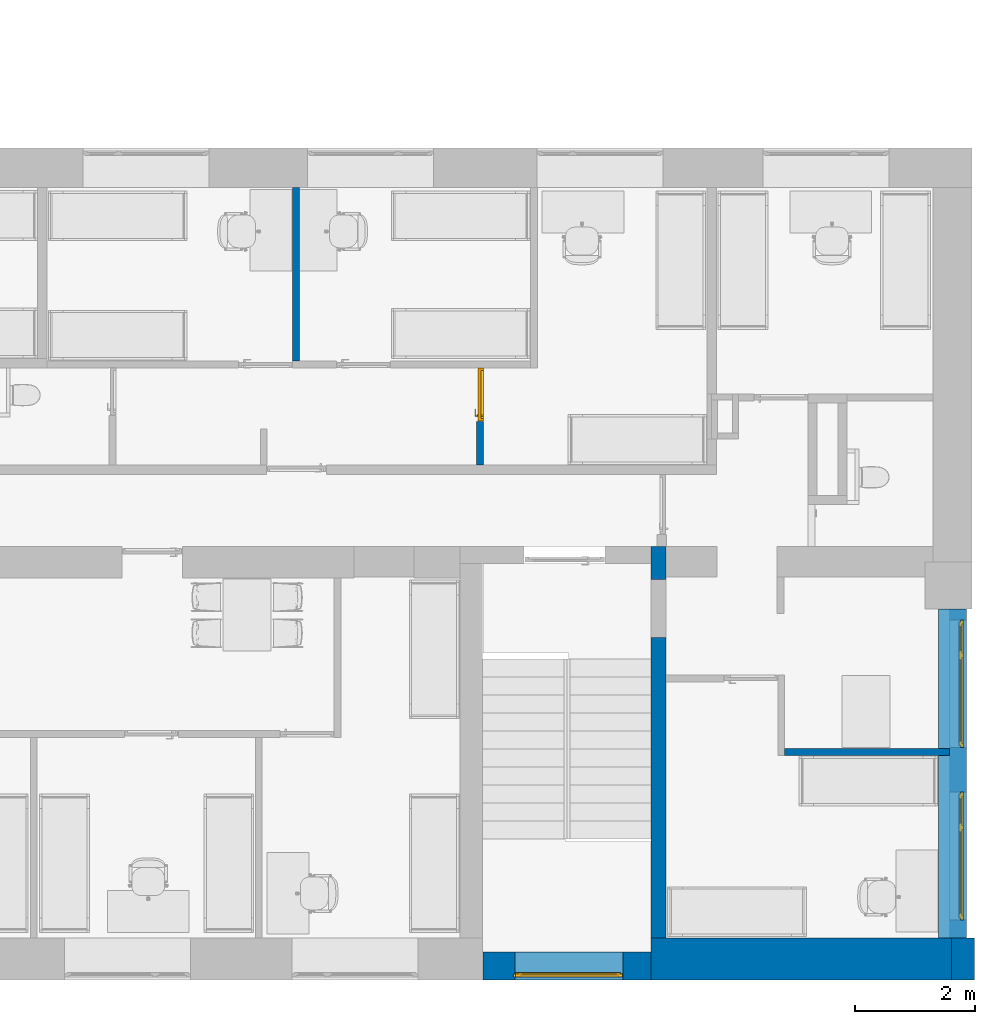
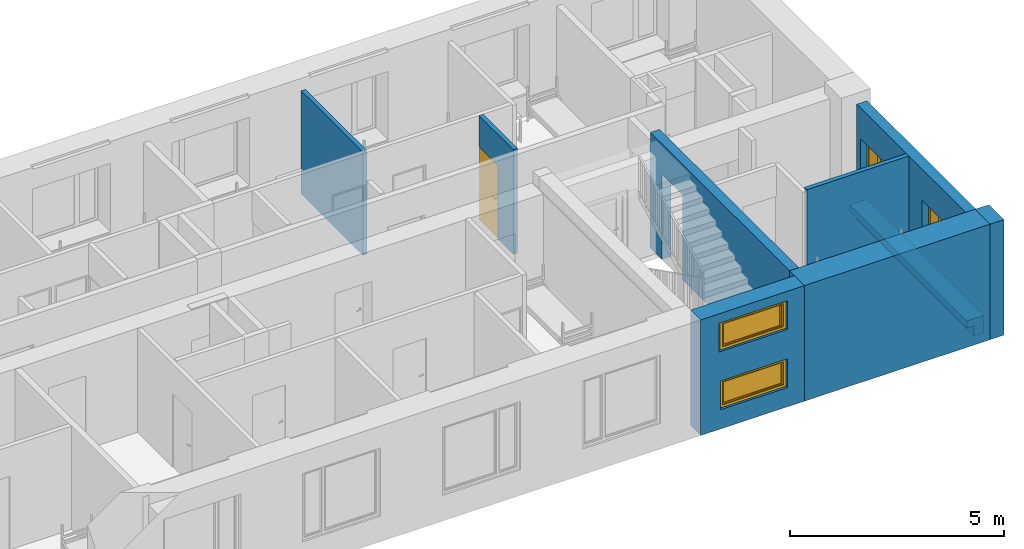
# One storey, part 11 of 48: 9 walls, 5 windows, 1 door, 10 openings.
"""IFC2X3 building model written with IfcOpenShell, lengths in millimetres."""

from ifc_helpers import new_model, entity, si_unit, converted_unit, derived_unit, direction, frame, frame_2d, origin, place, context, subcontext, project, spatial, polyline, rectangle, outline, extrude, clip, bounded_halfspace, faceted_brep, source, transform, mapped, material, material_list, layer, layer_set, layer_usage, type_object, type_shapes, element, fill, save


model = new_model("IFC2X3")

# Units and contexts
model_context = context("Model", 3, precision=0.01, world=origin(), true_north=direction((6.12303176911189e-17, 1.0)))
body_context = subcontext(model_context, "Body", "Model", "MODEL_VIEW")
ifc_project = project(units=[si_unit("LENGTHUNIT", "METRE", prefix="MILLI"), si_unit("AREAUNIT", "SQUARE_METRE"), si_unit("VOLUMEUNIT", "CUBIC_METRE"), converted_unit("PLANEANGLEUNIT", "DEGREE", entity("IfcRatioMeasure", 0.0174532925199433), si_unit("PLANEANGLEUNIT", "RADIAN"), dimensions=[0, 0, 0, 0, 0, 0, 0]), si_unit("MASSUNIT", "GRAM", prefix="KILO"), derived_unit("MASSDENSITYUNIT", [(si_unit("MASSUNIT", "GRAM", prefix="KILO"), 1), (si_unit("LENGTHUNIT", "METRE"), -3)]), si_unit("TIMEUNIT", "SECOND"), si_unit("FREQUENCYUNIT", "HERTZ"), si_unit("THERMODYNAMICTEMPERATUREUNIT", "DEGREE_CELSIUS"), derived_unit("THERMALTRANSMITTANCEUNIT", [(si_unit("MASSUNIT", "GRAM", prefix="KILO"), 1), (si_unit("THERMODYNAMICTEMPERATUREUNIT", "KELVIN"), -1), (si_unit("TIMEUNIT", "SECOND"), -3)]), derived_unit("VOLUMETRICFLOWRATEUNIT", [(si_unit("LENGTHUNIT", "METRE"), 3), (si_unit("TIMEUNIT", "SECOND"), -1)]), si_unit("ELECTRICCURRENTUNIT", "AMPERE"), si_unit("ELECTRICVOLTAGEUNIT", "VOLT"), si_unit("POWERUNIT", "WATT"), si_unit("FORCEUNIT", "NEWTON", prefix="KILO"), si_unit("ILLUMINANCEUNIT", "LUX"), si_unit("LUMINOUSFLUXUNIT", "LUMEN"), si_unit("LUMINOUSINTENSITYUNIT", "CANDELA"), derived_unit("USERDEFINED", [(si_unit("MASSUNIT", "GRAM", prefix="KILO"), -1), (si_unit("LENGTHUNIT", "METRE"), -2), (si_unit("TIMEUNIT", "SECOND"), 3), (si_unit("LUMINOUSFLUXUNIT", "LUMEN"), 1)]), derived_unit("LINEARVELOCITYUNIT", [(si_unit("LENGTHUNIT", "METRE"), 1), (si_unit("TIMEUNIT", "SECOND"), -1)]), si_unit("PRESSUREUNIT", "PASCAL"), derived_unit("USERDEFINED", [(si_unit("LENGTHUNIT", "METRE"), -2), (si_unit("MASSUNIT", "GRAM", prefix="KILO"), 1), (si_unit("TIMEUNIT", "SECOND"), -2)]), derived_unit("LINEARFORCEUNIT", [(si_unit("MASSUNIT", "GRAM", prefix="KILO"), 1), (si_unit("LENGTHUNIT", "METRE"), 1), (si_unit("TIMEUNIT", "SECOND"), -2), (si_unit("LENGTHUNIT", "METRE"), -1)]), derived_unit("PLANARFORCEUNIT", [(si_unit("MASSUNIT", "GRAM", prefix="KILO"), 1), (si_unit("LENGTHUNIT", "METRE"), 1), (si_unit("TIMEUNIT", "SECOND"), -2), (si_unit("LENGTHUNIT", "METRE"), -2)])], contexts=[model_context])

# Site, building, storey
site_placement = place(None, origin())
site = spatial("IfcSite", under=ifc_project, at=site_placement, Name="Default", CompositionType="ELEMENT")
building_placement = place(site_placement, origin())
building = spatial("IfcBuilding", under=site, at=building_placement, Name="SMA ARH", CompositionType="ELEMENT")
storey_placement = place(building_placement, frame((0.0, 0.0, 3300.0)))
storey = spatial("IfcBuildingStorey", under=building, at=storey_placement, Name="2 Korrus", CompositionType="ELEMENT", Elevation=3299.99999999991)

# Wall, openings
ifc_material_1 = material(Name="_ol.olev sein")
ifc_layer_1 = layer(ifc_material_1, 700.0)
ifc_layer_set_1 = layer_set([ifc_layer_1], Name="Basic Wall:Generic - 700mm")
ifc_layer_usage_1 = layer_usage(ifc_layer_set_1, "AXIS2", "POSITIVE", -350.0)
wall_type_1 = type_object("IfcWallType", Name="Basic Wall:Generic - 700mm", PredefinedType="STANDARD", material=ifc_layer_set_1)
wall_1_placement = place(storey_placement, frame((33610.6980017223, -350.0, 0.0)))
wall_1 = element("IfcWallStandardCase", 1, at=wall_1_placement, inside=storey, type_object=wall_type_1, material=ifc_layer_usage_1, Name="Basic Wall:Generic - 700mm", ObjectType="Basic Wall:Generic - 700mm", context=body_context, shape_type="SweptSolid", body=[
    extrude(rectangle(XDim=5010.00000000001, YDim=700.0, at=frame_2d((2505.00000000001, 5.6843418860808e-14), x_axis=(-1.0, 0.0))), origin(), (0.0, 0.0, 1.0), 3299.99999999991),
])
opening_1_placement = place(wall_1_placement, origin())
element("IfcOpeningElement", 2, at=opening_1_placement, cuts=wall_1, Name="Basic Wall:Generic - 700mm", ObjectType="Opening", context=body_context, shape_type="SweptSolid", body=[
    extrude(rectangle(XDim=820.0, YDim=1800.0, at=frame_2d((0.0, 0.0), x_axis=(0.0, 1.0))), frame((-1360.69800172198, -1404.0, 960.0), z_axis=(0.0, 1.0, 0.0), x_axis=(-1.0, 0.0, 0.0)), (0.0, 0.0, 1.0), 3048.0),
])
opening_2_placement = place(wall_1_placement, origin())
element("IfcOpeningElement", 3, at=opening_2_placement, cuts=wall_1, Name="Basic Wall:Generic - 700mm", ObjectType="Opening", context=body_context, shape_type="SweptSolid", body=[
    extrude(rectangle(XDim=820.0, YDim=1800.0, at=frame_2d((4.32009983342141e-12, 0.0), x_axis=(0.0, 1.0))), frame((-1400.69800172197, -1404.0, 2620.0), z_axis=(0.0, 1.0, 0.0), x_axis=(-1.0, 0.0, 0.0)), (0.0, 0.0, 1.0), 3048.0),
])

# Wall, openings, windows
ifc_layer_2 = layer(ifc_material_1, 280.0)
ifc_layer_set_2 = layer_set([ifc_layer_2], Name="Basic Wall:Generic - 280mm")
ifc_layer_usage_2 = layer_usage(ifc_layer_set_2, "AXIS2", "NEGATIVE", 140.0)
wall_type_2 = type_object("IfcWallType", Name="Basic Wall:Generic - 280mm", PredefinedType="STANDARD", material=ifc_layer_set_2)
wall_2_placement = place(storey_placement, frame((38729.9009991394, 5480.0, 183.574181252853), z_axis=(0.0, 0.0, 1.0), x_axis=(0.0, -1.0, 0.0)))
wall_2 = element("IfcWallStandardCase", 4, at=wall_2_placement, inside=storey, type_object=wall_type_2, material=ifc_layer_usage_2, Name="Basic Wall:Generic - 280mm", ObjectType="Basic Wall:Generic - 280mm", context=body_context, shape_type="SweptSolid", body=[
    extrude(rectangle(XDim=5480.00000000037, YDim=279.999999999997, at=frame_2d((2740.00000000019, -2.70006239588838e-13), x_axis=(-1.0, 0.0))), origin(), (0.0, 0.0, 1.0), 2806.42581874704),
])
opening_3_placement = place(wall_2_placement, frame((3050.0, -140.0, 616.425818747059)))
opening_3 = element("IfcOpeningElement", 5, at=opening_3_placement, cuts=wall_2, Name="SMA_W2, 2-jaotus:A-00 - 19800x1900:1", ObjectType="Opening", context=body_context, shape_type="SweptSolid", body=[
    extrude(rectangle(XDim=1300.0, YDim=2130.0, at=frame_2d((650.0, 1065.0), x_axis=(1.0, 0.0))), frame((0.0, 0.0, 0.0), z_axis=(0.0, 1.0, 0.0), x_axis=(0.0, 0.0, 1.0)), (0.0, 0.0, 1.0), 280.0),
])
opening_4_placement = place(wall_2_placement, frame((180.0, -140.0, 631.425818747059)))
opening_4 = element("IfcOpeningElement", 6, at=opening_4_placement, cuts=wall_2, Name="SMA_W2, 2-jaotus:A-00 - 19800x1900:1", ObjectType="Opening", context=body_context, shape_type="SweptSolid", body=[
    extrude(rectangle(XDim=1300.0, YDim=2130.0, at=frame_2d((650.0, 1065.0), x_axis=(1.0, 0.0))), frame((0.0, 0.0, 0.0), z_axis=(0.0, 1.0, 0.0), x_axis=(0.0, 0.0, 1.0)), (0.0, 0.0, 1.0), 280.0),
])
ifc_material_2 = material(Name="Glass")
ifc_material_3 = material(Name="Hall")
ifc_material_list_1 = material_list([ifc_material_2, ifc_material_3])
ifc_material_4 = material(Name="<Unnamed>")
ifc_material_list_2 = material_list([ifc_material_3, ifc_material_2, ifc_material_4, ifc_material_3, ifc_material_4])
window_style_1 = type_object("IfcWindowStyle", Name="SMA_W2, 2-jaotus:A-00 - 19800x1900", ConstructionType="NOTDEFINED", OperationType="NOTDEFINED", ParameterTakesPrecedence=False, Sizeable=False, material=ifc_material_list_2)
shared_shape_1 = source(origin(), body_context, "Body", "Brep", [
    faceted_brep([(2025.0, 170.0, 1195.0), (660.0, 170.0, 1195.0), (660.0, 170.0, 105.0), (2025.0, 170.0, 105.0), (2025.0, 190.0, 105.0), (2025.0, 190.0, 1195.0), (660.0, 190.0, 105.0), (660.0, 190.0, 1195.0)], [[[0, 1, 2, 3]], [[3, 4, 5, 0]], [[2, 6, 4, 3]], [[1, 7, 6, 2]], [[5, 4, 6, 7]], [[0, 5, 7, 1]]]),
    faceted_brep([(520.0, 170.0, 105.0), (520.0, 170.0, 1195.0), (105.0, 170.0, 1195.0), (105.0, 170.0, 105.0), (105.0, 190.0, 105.0), (520.0, 190.0, 105.0), (105.0, 190.0, 1195.0), (520.0, 190.0, 1195.0)], [[[0, 1, 2, 3]], [[3, 4, 5, 0]], [[2, 6, 4, 3]], [[0, 5, 7, 1]], [[5, 4, 6, 7]], [[1, 7, 6, 2]]]),
    faceted_brep([(2095.0, 155.0, 35.0), (2095.0, 155.0, 1265.0), (590.0, 155.0, 1265.0), (590.0, 155.0, 35.0), (660.0, 155.0, 1195.0), (2025.0, 155.0, 1195.0), (2025.0, 155.0, 105.0), (660.0, 155.0, 105.0), (590.0, 205.0, 35.0), (2095.0, 205.0, 35.0), (590.0, 205.0, 1265.0), (2095.0, 205.0, 1265.0), (660.0, 205.0, 105.0), (660.0, 205.0, 1195.0), (2025.0, 205.0, 105.0), (2025.0, 205.0, 1195.0)], [[[0, 1, 2, 3], [4, 5, 6, 7]], [[3, 8, 9, 0]], [[2, 10, 8, 3]], [[0, 9, 11, 1]], [[7, 12, 13, 4]], [[6, 14, 12, 7]], [[5, 15, 14, 6]], [[9, 8, 10, 11], [13, 12, 14, 15]], [[1, 11, 10, 2]], [[4, 13, 15, 5]]]),
    faceted_brep([(590.0, 155.0, 35.0), (590.0, 155.0, 1265.0), (35.0, 155.0, 1265.0), (35.0, 155.0, 35.0), (105.0, 155.0, 1195.0), (520.0, 155.0, 1195.0), (520.0, 155.0, 105.0), (105.0, 155.0, 105.0), (35.0, 205.0, 35.0), (590.0, 205.0, 35.0), (35.0, 205.0, 1265.0), (590.0, 205.0, 1265.0), (105.0, 205.0, 105.0), (105.0, 205.0, 1195.0), (520.0, 205.0, 105.0), (520.0, 205.0, 1195.0)], [[[0, 1, 2, 3], [4, 5, 6, 7]], [[3, 8, 9, 0]], [[2, 10, 8, 3]], [[0, 9, 11, 1]], [[7, 12, 13, 4]], [[6, 14, 12, 7]], [[5, 15, 14, 6]], [[9, 8, 10, 11], [13, 12, 14, 15]], [[1, 11, 10, 2]], [[4, 13, 15, 5]]]),
    faceted_brep([(35.0, 180.0, 35.0), (35.0, 180.0, 1265.0), (590.0, 180.0, 1265.0), (590.0, 180.0, 35.0), (2060.0, 180.0, 1230.0), (2060.0, 180.0, 70.0), (625.0, 180.0, 70.0), (625.0, 180.0, 1230.0), (2130.0, 180.0, 0.0), (2130.0, 180.0, 1300.0), (0.0, 180.0, 1300.0), (0.0, 180.0, 0.0), (0.0, 230.0, 0.0), (2130.0, 230.0, 0.0), (0.0, 230.0, 1300.0), (2130.0, 230.0, 1300.0), (625.0, 230.0, 70.0), (625.0, 230.0, 1230.0), (2060.0, 230.0, 70.0), (2060.0, 230.0, 1230.0), (35.0, 205.0, 35.0), (590.0, 205.0, 35.0), (590.0, 205.0, 1265.0), (35.0, 205.0, 1265.0), (555.0, 230.0, 1230.0), (70.0, 230.0, 1230.0), (70.0, 230.0, 70.0), (555.0, 230.0, 70.0), (555.0, 205.0, 70.0), (555.0, 205.0, 1230.0), (70.0, 205.0, 70.0), (70.0, 205.0, 1230.0)], [[[0, 1, 2, 3], [4, 5, 6, 7], [8, 9, 10, 11]], [[11, 12, 13, 8]], [[10, 14, 12, 11]], [[8, 13, 15, 9]], [[6, 16, 17, 7]], [[5, 18, 16, 6]], [[4, 19, 18, 5]], [[20, 0, 3, 21]], [[21, 3, 2, 22]], [[23, 1, 0, 20]], [[13, 12, 14, 15], [24, 25, 26, 27], [19, 17, 16, 18]], [[27, 28, 29, 24]], [[26, 30, 28, 27]], [[25, 31, 30, 26]], [[21, 22, 23, 20], [29, 28, 30, 31]], [[9, 15, 14, 10]], [[24, 29, 31, 25]], [[7, 17, 19, 4]], [[22, 2, 1, 23]]], outer=[[False, False, True], [True], [True], [True], [True], [True], [True], [True], [True], [True], [True, False, False], [True], [True], [True], [True, False], [True], [True], [True], [True]]),
])
type_shapes(window_style_1, [shared_shape_1])
window_1_placement = place(opening_3_placement, origin())
window_1 = element("IfcWindow", 7, at=window_1_placement, inside=storey, type_object=window_style_1, material=ifc_material_list_1, Name="SMA_W2, 2-jaotus:A-00 - 19800x1900", ObjectType="SMA_W2, 2-jaotus:A-00 - 19800x1900", OverallHeight=1300.0, OverallWidth=2130.0, context=body_context, shape_type="MappedRepresentation", body=[
    mapped(shared_shape_1, transform((0.0, 0.0, 0.0), scale=1.0)),
])
fill(opening_3, window_1)
ifc_material_list_3 = material_list([ifc_material_2, ifc_material_3])
window_2_placement = place(opening_4_placement, origin())
window_2 = element("IfcWindow", 8, at=window_2_placement, inside=storey, type_object=window_style_1, material=ifc_material_list_3, Name="SMA_W2, 2-jaotus:A-00 - 19800x1900", ObjectType="SMA_W2, 2-jaotus:A-00 - 19800x1900", OverallHeight=1300.0, OverallWidth=2130.0, context=body_context, shape_type="MappedRepresentation", body=[
    mapped(shared_shape_1, transform((0.0, 0.0, 0.0), scale=1.0)),
])
fill(opening_4, window_2)

# Wall, opening
ifc_layer_3 = layer(ifc_material_1, 250.0)
ifc_layer_set_3 = layer_set([ifc_layer_3], Name="Basic Wall:Generic - 250mm")
ifc_layer_usage_3 = layer_usage(ifc_layer_set_3, "AXIS2", "NEGATIVE", 125.0)
wall_type_3 = type_object("IfcWallType", Name="Basic Wall:Generic - 250mm", PredefinedType="STANDARD", material=ifc_layer_set_3)
wall_3_placement = place(storey_placement, frame((33740.0, 6520.0, 0.0), z_axis=(0.0, 0.0, 1.0), x_axis=(0.0, -1.0, 0.0)))
wall_3 = element("IfcWallStandardCase", 9, at=wall_3_placement, inside=storey, type_object=wall_type_3, material=ifc_layer_usage_3, Name="Basic Wall:Generic - 250mm", ObjectType="Basic Wall:Generic - 250mm", context=body_context, shape_type="Clipping", body=[
    clip(clip(extrude(rectangle(XDim=6520.00000000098, YDim=250.000000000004, at=frame_2d((3260.00000000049, 3.62376795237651e-13), x_axis=(-1.0, 0.0))), origin(), (0.0, 0.0, 1.0), 3299.99999999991), bounded_halfspace(frame((10.0, -125.0, 2970.0), z_axis=(0.0, 0.0, -1.0), x_axis=(-1.0, 0.0, 0.0)), True, frame((10.0, -125.0, 2970.0), z_axis=(0.0, 0.0, -1.0), x_axis=(-1.0, 0.0, 0.0)), polyline([(0.0, 0.0), (10.0, 0.0), (10.0, 250.0), (0.0, 250.0), (0.0, 0.0)]))), bounded_halfspace(frame((10.0, 125.0, 2970.0), z_axis=(1.0, 0.0, 0.0), x_axis=(0.0, 0.0, 1.0)), True, frame((10.0, 125.0, 2970.0), z_axis=(1.0, 0.0, 0.0), x_axis=(0.0, 0.0, 1.0)), polyline([(0.0, 0.0), (330.0, 0.0), (330.0, 250.0), (0.0, 250.0), (0.0, 0.0)]))),
])
opening_5_placement = place(wall_3_placement, origin())
element("IfcOpeningElement", 10, at=opening_5_placement, cuts=wall_3, Name="Basic Wall:Generic - 250mm", ObjectType="Opening", context=body_context, shape_type="SweptSolid", body=[
    extrude(rectangle(XDim=2438.4, YDim=959.999999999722, at=frame_2d((0.0, 5.40012479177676e-13), x_axis=(1.0, 0.0))), frame((1030.0, -125.0, 1219.2), z_axis=(0.0, 1.0, 0.0), x_axis=(0.0, 0.0, -1.0)), (0.0, 0.0, 1.0), 250.000000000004),
])

# Wall
ifc_layer_4 = layer(ifc_material_1, 380.0)
ifc_layer_set_4 = layer_set([ifc_layer_4], Name="Basic Wall:Generic - 380mm")
ifc_layer_usage_4 = layer_usage(ifc_layer_set_4, "AXIS2", "POSITIVE", -190.0)
wall_type_4 = type_object("IfcWallType", Name="Basic Wall:Generic - 380mm", PredefinedType="STANDARD", material=ifc_layer_set_4)
wall_4_placement = place(storey_placement, frame((38810.6980017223, -700.0, 0.0), z_axis=(0.0, 0.0, 1.0), x_axis=(0.0, 1.0, 0.0)))
element("IfcWallStandardCase", 11, at=wall_4_placement, inside=storey, type_object=wall_type_4, material=ifc_layer_usage_4, Name="Basic Wall:Generic - 380mm", ObjectType="Basic Wall:Generic - 380mm", context=body_context, shape_type="SweptSolid", body=[
    extrude(rectangle(XDim=699.999999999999, YDim=380.0, at=frame_2d((350.0, 0.0), x_axis=(-1.0, 0.0))), origin(), (0.0, 0.0, 1.0), 3299.99999999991),
])

# Wall, opening
ifc_layer_5 = layer(ifc_material_1, 470.0)
ifc_layer_set_5 = layer_set([ifc_layer_5], Name="Basic Wall:Generic - 470mm")
ifc_layer_usage_5 = layer_usage(ifc_layer_set_5, "AXIS2", "NEGATIVE", 235.0)
wall_type_5 = type_object("IfcWallType", Name="Basic Wall:Generic - 470mm", PredefinedType="STANDARD", material=ifc_layer_set_5)
wall_5_placement = place(storey_placement, frame((38634.9009991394, 5480.0, -310.0), z_axis=(0.0, 0.0, 1.0), x_axis=(0.0, -1.0, 0.0)))
wall_5 = element("IfcWallStandardCase", 12, at=wall_5_placement, inside=storey, type_object=wall_type_5, material=ifc_layer_usage_5, Name="Basic Wall:Generic - 470mm", ObjectType="Basic Wall:Generic - 470mm", context=body_context, shape_type="Clipping", body=[
    clip(clip(extrude(rectangle(XDim=5480.00000000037, YDim=469.999999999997, at=frame_2d((2740.00000000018, 1.13686837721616e-13), x_axis=(-1.0, 0.0))), origin(), (0.0, 0.0, 1.0), 493.574181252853), bounded_halfspace(frame((0.0, -45.0, 300.0)), True, frame((0.0, -45.0, 300.0)), polyline([(0.0, 0.0), (0.0, -190.0), (5480.0, -190.0), (5480.0, 0.0), (0.0, 0.0)]))), bounded_halfspace(frame((5480.0, -45.0, 300.0), z_axis=(0.0, 1.0, 0.0), x_axis=(0.0, 0.0, 1.0)), True, frame((5480.0, -45.0, 300.0), z_axis=(0.0, 1.0, 0.0), x_axis=(0.0, 0.0, 1.0)), polyline([(0.0, 0.0), (-300.0, 0.0), (-300.0, -5480.0), (0.0, -5480.0), (0.0, 0.0)]))),
])
opening_6_placement = place(wall_5_placement, origin())
element("IfcOpeningElement", 13, at=opening_6_placement, cuts=wall_5, Name="Basic Wall:Generic - 470mm", ObjectType="Opening", context=body_context, shape_type="SweptSolid", body=[
    extrude(rectangle(XDim=1300.0, YDim=2130.0, at=frame_2d((-1.70530256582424e-13, -5.6843418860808e-13), x_axis=(1.0, 0.0))), frame((1245.0, -1569.0, -1010.0), z_axis=(0.0, 1.0, 0.0), x_axis=(0.0, 0.0, 1.0)), (0.0, 0.0, 1.0), 3048.0),
])

# Wall, openings, windows
ifc_layer_usage_6 = layer_usage(ifc_layer_set_5, "AXIS2", "POSITIVE", -235.0)
wall_6_placement = place(storey_placement, frame((30810.6980017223, -465.0, 0.0)))
wall_6 = element("IfcWallStandardCase", 14, at=wall_6_placement, inside=storey, type_object=wall_type_5, material=ifc_layer_usage_6, Name="Basic Wall:Generic - 470mm", ObjectType="Basic Wall:Generic - 470mm", context=body_context, shape_type="SweptSolid", body=[
    extrude(rectangle(XDim=2800.0, YDim=470.0, at=frame_2d((1400.0, -8.5265128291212e-14), x_axis=(-1.0, 0.0))), origin(), (0.0, 0.0, 1.0), 3299.99999999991),
])
opening_7_placement = place(wall_6_placement, frame((2339.30199827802, 235.0, 550.0)))
opening_7 = element("IfcOpeningElement", 15, at=opening_7_placement, cuts=wall_6, Name="SMA_W1, 1-jaotus1:A-00_18000x600 mm:1", ObjectType="Opening", context=body_context, shape_type="SweptSolid", body=[
    extrude(rectangle(XDim=820.0, YDim=1800.0, at=frame_2d((410.0, 900.0), x_axis=(1.0, 0.0))), frame((0.0, 0.0, 0.0), z_axis=(0.0, -1.0, 0.0), x_axis=(0.0, 0.0, 1.0)), (0.0, 0.0, 1.0), 470.0),
])
opening_8_placement = place(wall_6_placement, frame((2299.30199827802, 235.0, 2210.0)))
opening_8 = element("IfcOpeningElement", 16, at=opening_8_placement, cuts=wall_6, Name="SMA_W1, 1-jaotus1:A-00_18000x600 mm:1", ObjectType="Opening", context=body_context, shape_type="SweptSolid", body=[
    extrude(rectangle(XDim=820.0, YDim=1800.0, at=frame_2d((410.0, 900.0), x_axis=(1.0, 0.0))), frame((0.0, 0.0, 0.0), z_axis=(0.0, -1.0, 0.0), x_axis=(0.0, 0.0, 1.0)), (0.0, 0.0, 1.0), 470.0),
])
opening_9_placement = place(wall_6_placement, frame((2339.30199827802, 235.0, 2210.0)))
opening_9 = element("IfcOpeningElement", 17, at=opening_9_placement, cuts=wall_6, Name="SMA_W1, 1-jaotus1:A-00_18000x600 mm:1", ObjectType="Opening", context=body_context, shape_type="SweptSolid", body=[
    extrude(rectangle(XDim=820.0, YDim=1800.0, at=frame_2d((410.0, 900.0), x_axis=(1.0, 0.0))), frame((0.0, 0.0, 0.0), z_axis=(0.0, -1.0, 0.0), x_axis=(0.0, 0.0, 1.0)), (0.0, 0.0, 1.0), 470.0),
])
ifc_material_5 = material(Name="EST. Klaas. 3x. Default")
ifc_material_6 = material(Name="Default")
ifc_material_list_4 = material_list([ifc_material_5, ifc_material_6])
ifc_material_list_5 = material_list([ifc_material_4, ifc_material_4, ifc_material_6, ifc_material_6, ifc_material_5])
window_style_2 = type_object("IfcWindowStyle", Name="SMA_W1, 1-jaotus1:A-00_18000x600 mm", ConstructionType="NOTDEFINED", OperationType="NOTDEFINED", ParameterTakesPrecedence=False, Sizeable=False, material=ifc_material_list_5)
shared_shape_2 = source(origin(), body_context, "Body", "SweptSolid", [
    extrude(rectangle(XDim=20.0, YDim=1570.0, at=frame_2d((-7.99360577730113e-15, -5.6843418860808e-14), x_axis=(1.0, 0.0))), frame((900.0, 370.0, 115.0), z_axis=(0.0, 0.0, 1.0), x_axis=(0.0, 1.0, 0.0)), (0.0, 0.0, 1.0), 590.0),
    extrude(outline(polyline([(-365.0, -855.0), (365.0, -855.0), (365.0, 855.0), (-365.0, 855.0), (-365.0, -855.0)]), holes=[polyline([(295.0, 785.0), (295.0, -785.0), (-295.0, -785.0), (-295.0, 785.0), (295.0, 785.0)])]), frame((900.0, 345.0, 410.0), z_axis=(0.0, 1.0, 0.0), x_axis=(0.0, 0.0, 1.0)), (0.0, 0.0, 1.0), 50.0),
    extrude(outline(polyline([(-400.0, -890.0), (400.0, -890.0), (400.0, 890.0), (-400.0, 890.0), (-400.0, -890.0)]), holes=[polyline([(-330.0, -820.0), (-330.0, 820.0), (330.0, 820.0), (330.0, -820.0), (-330.0, -820.0)])]), frame((900.0, 370.0, 410.0), z_axis=(0.0, 1.0, 0.0), x_axis=(0.0, 0.0, 1.0)), (0.0, 0.0, 1.0), 50.0),
])
type_shapes(window_style_2, [shared_shape_2])
window_3_placement = place(opening_7_placement, frame((0.0, 0.0, 0.0), z_axis=(0.0, 0.0, 1.0), x_axis=(-1.0, 0.0, 0.0)))
window_3 = element("IfcWindow", 18, at=window_3_placement, inside=storey, type_object=window_style_2, material=ifc_material_list_4, Name="SMA_W1, 1-jaotus1:A-00_18000x600 mm", ObjectType="SMA_W1, 1-jaotus1:A-00_18000x600 mm", OverallHeight=820.0, OverallWidth=1800.0, context=body_context, shape_type="MappedRepresentation", body=[
    mapped(shared_shape_2, transform((0.0, 0.0, 0.0), scale=1.0)),
])
fill(opening_7, window_3)
ifc_material_list_6 = material_list([ifc_material_5, ifc_material_6])
window_4_placement = place(opening_8_placement, frame((0.0, 0.0, 0.0), z_axis=(0.0, 0.0, 1.0), x_axis=(-1.0, 0.0, 0.0)))
window_4 = element("IfcWindow", 19, at=window_4_placement, inside=storey, type_object=window_style_2, material=ifc_material_list_6, Name="SMA_W1, 1-jaotus1:A-00_18000x600 mm", ObjectType="SMA_W1, 1-jaotus1:A-00_18000x600 mm", OverallHeight=820.0, OverallWidth=1800.0, context=body_context, shape_type="MappedRepresentation", body=[
    mapped(shared_shape_2, transform((0.0, 0.0, 0.0), scale=1.0)),
])
fill(opening_8, window_4)
ifc_material_list_7 = material_list([ifc_material_5, ifc_material_6])
window_5_placement = place(opening_9_placement, frame((0.0, 0.0, 0.0), z_axis=(0.0, 0.0, 1.0), x_axis=(-1.0, 0.0, 0.0)))
window_5 = element("IfcWindow", 20, at=window_5_placement, inside=storey, type_object=window_style_2, material=ifc_material_list_7, Name="SMA_W1, 1-jaotus1:A-00_18000x600 mm", ObjectType="SMA_W1, 1-jaotus1:A-00_18000x600 mm", OverallHeight=820.0, OverallWidth=1800.0, context=body_context, shape_type="MappedRepresentation", body=[
    mapped(shared_shape_2, transform((0.0, 0.0, 0.0), scale=1.0)),
])
fill(opening_9, window_5)

# Walls
ifc_material_7 = material(Name="EST. Ehitusplaat. Kipsplaat")
ifc_layer_6 = layer(ifc_material_7, 12.5)
ifc_layer_7 = layer(ifc_material_7, 12.5)
ifc_material_8 = material(Name="EST. Soojustus. Mineraalvill. Default")
ifc_layer_8 = layer(ifc_material_8, 66.0)
ifc_layer_9 = layer(ifc_material_7, 12.5)
ifc_layer_10 = layer(ifc_material_7, 12.5)
ifc_layer_set_6 = layer_set([ifc_layer_6, ifc_layer_7, ifc_layer_8, ifc_layer_9, ifc_layer_10], Name="Basic Wall:SS-05_Kips, 66mm metallkarkass")
ifc_layer_usage_7 = layer_usage(ifc_layer_set_6, "AXIS2", "NEGATIVE", 58.0)
wall_type_6 = type_object("IfcWallType", Name="Basic Wall:SS-05_Kips, 66mm metallkarkass", PredefinedType="STANDARD", material=ifc_layer_set_6)
wall_7_placement = place(storey_placement, frame((27701.5000000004, 12500.0, 0.0), z_axis=(0.0, 0.0, 1.0), x_axis=(0.0, -1.0, 0.0)))
element("IfcWallStandardCase", 21, at=wall_7_placement, inside=storey, type_object=wall_type_6, material=ifc_layer_usage_7, Name="Basic Wall:SS-05_Kips, 66mm metallkarkass", ObjectType="Basic Wall:SS-05_Kips, 66mm metallkarkass", context=body_context, shape_type="SweptSolid", body=[
    extrude(rectangle(XDim=2889.49999999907, YDim=116.0, at=frame_2d((1444.74999999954, -2.06057393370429e-13), x_axis=(-1.0, 0.0))), origin(), (0.0, 0.0, 1.0), 2949.99999999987),
])
ifc_layer_usage_8 = layer_usage(ifc_layer_set_6, "AXIS2", "NEGATIVE", 58.0)
wall_8_placement = place(storey_placement, frame((35841.5000000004, 3097.50000000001, 0.0)))
element("IfcWallStandardCase", 22, at=wall_8_placement, inside=storey, type_object=wall_type_6, material=ifc_layer_usage_8, Name="Basic Wall:SS-05_Kips, 66mm metallkarkass", ObjectType="Basic Wall:SS-05_Kips, 66mm metallkarkass", context=body_context, shape_type="SweptSolid", body=[
    extrude(rectangle(XDim=2748.40099913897, YDim=116.0, at=frame_2d((1374.20049956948, -1.31450406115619e-13), x_axis=(-1.0, 0.0))), origin(), (0.0, 0.0, 1.0), 2989.99999999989),
])

# Wall, opening, door
ifc_layer_usage_9 = layer_usage(ifc_layer_set_6, "AXIS2", "NEGATIVE", 58.0)
wall_9_placement = place(storey_placement, frame((30766.5835423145, 9494.50000000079, 0.0), z_axis=(0.0, 0.0, 1.0), x_axis=(0.0, -1.0, 0.0)))
wall_9 = element("IfcWallStandardCase", 23, at=wall_9_placement, inside=storey, type_object=wall_type_6, material=ifc_layer_usage_9, Name="Basic Wall:SS-05_Kips, 66mm metallkarkass", ObjectType="Basic Wall:SS-05_Kips, 66mm metallkarkass", context=body_context, shape_type="SweptSolid", body=[
    extrude(rectangle(XDim=1612.00000000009, YDim=116.0, at=frame_2d((806.000000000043, 1.77635683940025e-14), x_axis=(-1.0, 0.0))), origin(), (0.0, 0.0, 1.0), 2989.99999999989),
])
opening_10_placement = place(wall_9_placement, frame((887.500000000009, 58.0, 0.0)))
opening_10 = element("IfcOpeningElement", 24, at=opening_10_placement, cuts=wall_9, Name="SMA_D01, 1-poolne:SU-P-05 - 900x2100 TUBA:1", ObjectType="Opening", context=body_context, shape_type="SweptSolid", body=[
    extrude(rectangle(XDim=2099.99999999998, YDim=900.0, at=frame_2d((1049.99999999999, 450.0), x_axis=(1.0, 0.0))), frame((0.0, 0.0, 0.0), z_axis=(0.0, -1.0, 0.0), x_axis=(0.0, 0.0, 1.0)), (0.0, 0.0, 1.0), 116.0),
])
ifc_material_9 = material(Name="EST. Metall. Alumiinium. Värvitud. RAL7023 (Concrete grey)")
ifc_material_list_8 = material_list([ifc_material_4, ifc_material_5, ifc_material_4, ifc_material_9, ifc_material_9, ifc_material_9, ifc_material_4])
door_style = type_object("IfcDoorStyle", Name="SMA_D01, 1-poolne:SU-P-05 - 900x2100 TUBA", ConstructionType="NOTDEFINED", OperationType="SINGLE_SWING_RIGHT", ParameterTakesPrecedence=False, Sizeable=False, material=ifc_material_list_8)
shared_shape_3 = source(origin(), body_context, "Body", "Brep", [
    faceted_brep([(110.0, 6.0, 1112.5), (110.0, 44.0, 1112.5), (85.0, 44.0, 1112.5), (85.0, 1.0, 1112.5), (205.0, 1.0, 1112.5), (205.0, 6.0, 1112.5), (110.0, 6.0, 1087.5), (205.0, 6.0, 1087.5), (205.0, 1.0, 1087.5), (85.0, 1.0, 1087.5), (85.0, 44.0, 1087.5), (110.0, 44.0, 1087.5)], [[[0, 1, 2, 3, 4, 5]], [[6, 7, 8, 9, 10, 11]], [[1, 0, 6, 11]], [[2, 1, 11, 10]], [[3, 2, 10, 9]], [[4, 3, 9, 8]], [[5, 4, 8, 7]], [[0, 5, 7, 6]]]),
    faceted_brep([(122.5, 44.0, 1137.5), (122.5, 46.0, 1137.5), (72.5000000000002, 46.0, 1137.5), (72.5000000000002, 44.0, 1137.5), (122.5, 44.0, 1017.5), (72.5000000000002, 44.0, 1017.5), (72.5000000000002, 46.0, 1017.5), (122.5, 46.0, 1017.5)], [[[0, 1, 2, 3]], [[4, 5, 6, 7]], [[1, 0, 4, 7]], [[2, 1, 7, 6]], [[3, 2, 6, 5]], [[0, 3, 5, 4]]]),
    faceted_brep([(110.0, 136.0, 1112.5), (205.0, 136.0, 1112.5), (205.0, 141.0, 1112.5), (85.0, 141.0, 1112.5), (85.0, 98.0, 1112.5), (110.0, 98.0, 1112.5), (110.0, 136.0, 1087.5), (110.0, 98.0, 1087.5), (85.0, 98.0, 1087.5), (85.0, 141.0, 1087.5), (205.0, 141.0, 1087.5), (205.0, 136.0, 1087.5)], [[[0, 1, 2, 3, 4, 5]], [[6, 7, 8, 9, 10, 11]], [[5, 7, 6, 0]], [[4, 8, 7, 5]], [[3, 9, 8, 4]], [[2, 10, 9, 3]], [[1, 11, 10, 2]], [[0, 6, 11, 1]]]),
    faceted_brep([(122.5, 98.0, 1137.5), (72.5000000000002, 98.0, 1137.5), (72.5000000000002, 96.0, 1137.5), (122.5, 96.0, 1137.5), (122.5, 98.0, 1017.5), (122.5, 96.0, 1017.5), (72.5000000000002, 96.0, 1017.5), (72.5000000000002, 98.0, 1017.5)], [[[0, 1, 2, 3]], [[4, 5, 6, 7]], [[3, 5, 4, 0]], [[2, 6, 5, 3]], [[1, 7, 6, 2]], [[0, 4, 7, 1]]]),
    faceted_brep([(850.0, 6.0, 30.0), (850.0, 6.0, 0.0), (850.0, 46.0, 0.0), (850.0, 46.0, 20.0), (850.0, 46.0, 30.0), (50.0, 6.0, 30.0), (50.0, 46.0, 30.0), (50.0, 46.0, 20.0), (50.0, 46.0, 0.0), (50.0, 6.0, 0.0), (35.0, 46.0, 0.0), (35.0, 96.0, 0.0), (865.0, 96.0, 0.0), (865.0, 46.0, 0.0), (865.0, 96.0, 20.0), (865.0, 46.0, 20.0), (35.0, 96.0, 20.0), (35.0, 46.0, 20.0)], [[[0, 1, 2, 3, 4]], [[5, 6, 7, 8, 9]], [[1, 0, 5, 9]], [[2, 1, 9, 8, 10, 11, 12, 13]], [[6, 4, 3, 7]], [[0, 4, 6, 5]], [[14, 15, 13, 12]], [[16, 11, 10, 17]], [[15, 14, 16, 17, 7, 3]], [[13, 15, 3, 2]], [[14, 12, 11, 16]], [[17, 10, 8, 7]]]),
    faceted_brep([(890.0, 6.0, 0.0), (850.0, 6.0, 0.0), (850.0, 46.0, 0.0), (865.0, 46.0, 0.0), (865.0, 96.0, 0.0), (890.0, 96.0, 0.0), (890.0, 6.0, 2090.0), (10.0, 6.0, 2090.0), (10.0, 6.0, 0.0), (50.0, 6.0, 0.0), (50.0, 6.0, 2050.0), (850.0, 6.0, 2050.0), (850.0, 46.0, 2050.0), (50.0, 46.0, 2050.0), (50.0, 46.0, 0.0), (35.0, 46.0, 0.0), (35.0, 46.0, 2065.0), (865.0, 46.0, 2065.0), (865.0, 96.0, 2065.0), (35.0, 96.0, 2065.0), (35.0, 96.0, 0.0), (10.0, 96.0, 0.0), (10.0, 96.0, 2090.0), (890.0, 96.0, 2090.0)], [[[0, 1, 2, 3, 4, 5]], [[1, 0, 6, 7, 8, 9, 10, 11]], [[2, 1, 11, 12]], [[3, 2, 12, 13, 14, 15, 16, 17]], [[4, 3, 17, 18]], [[5, 4, 18, 19, 20, 21, 22, 23]], [[0, 5, 23, 6]], [[8, 7, 22, 21]], [[9, 8, 21, 20, 15, 14]], [[10, 9, 14, 13]], [[16, 15, 20, 19]], [[11, 10, 13, 12]], [[17, 16, 19, 18]], [[7, 6, 23, 22]]]),
    faceted_brep([(35.0, 46.0, 2065.0), (35.0, 46.0, 20.0), (865.0, 46.0, 20.0), (865.0, 46.0, 2065.0), (35.0, 96.0, 2065.0), (865.0, 96.0, 2065.0), (865.0, 96.0, 20.0), (35.0, 96.0, 20.0)], [[[0, 1, 2, 3]], [[4, 5, 6, 7]], [[1, 0, 4, 7]], [[2, 1, 7, 6]], [[3, 2, 6, 5]], [[0, 3, 5, 4]]]),
])
type_shapes(door_style, [shared_shape_3])
door_placement = place(opening_10_placement, frame((0.0, 0.0, 0.0), z_axis=(0.0, 0.0, 1.0), x_axis=(-1.0, 0.0, 0.0)))
door = element("IfcDoor", 25, at=door_placement, inside=storey, type_object=door_style, material=ifc_material_9, Name="SMA_D01, 1-poolne:SU-P-05 - 900x2100 TUBA", ObjectType="SMA_D01, 1-poolne:SU-P-05 - 900x2100 TUBA", OverallHeight=2099.99999999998, OverallWidth=900.0, context=body_context, shape_type="MappedRepresentation", body=[
    mapped(shared_shape_3, transform((0.0, 0.0, 0.0), scale=1.0)),
])
fill(opening_10, door)

save(model, "model.ifc")
